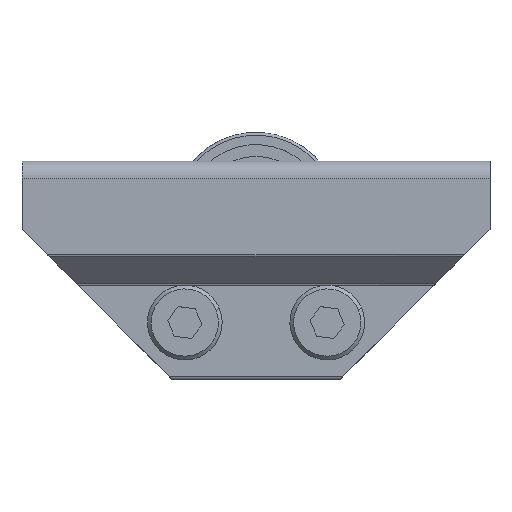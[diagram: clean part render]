
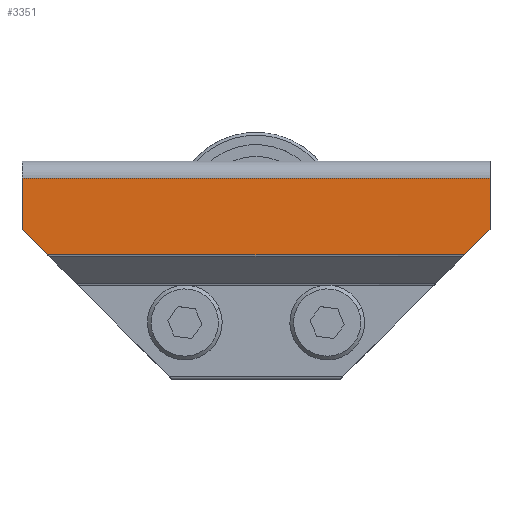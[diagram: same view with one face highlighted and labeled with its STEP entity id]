
A CAD part, top view. The second image highlights one B-rep face of the part: STEP entity #3351.
In plain terms, the highlighted planar face has unit normal (0, 0, 1) as drawn and (1, 0, 0) by its records, which use the part's own axes.
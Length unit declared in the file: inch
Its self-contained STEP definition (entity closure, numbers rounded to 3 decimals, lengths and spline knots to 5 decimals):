
#2826=DIRECTION('',(0.,-1.,0.));
#2827=VECTOR('',#2826,0.269);
#2828=CARTESIAN_POINT('',(0.375,0.763,-1.2325));
#2829=LINE('',#2828,#2827);
#2870=DIRECTION('',(0.,-0.707,-0.707));
#2871=VECTOR('',#2870,0.19062);
#2872=CARTESIAN_POINT('',(0.375,0.494,1.2325));
#2873=LINE('',#2872,#2871);
#2874=DIRECTION('',(0.,-1.,0.));
#2875=VECTOR('',#2874,0.269);
#2876=CARTESIAN_POINT('',(0.375,0.763,1.2325));
#2877=LINE('',#2876,#2875);
#2878=DIRECTION('',(0.,0.707,-0.707));
#2879=VECTOR('',#2878,0.19062);
#2880=CARTESIAN_POINT('',(0.375,0.35921,-1.09771));
#2881=LINE('',#2880,#2879);
#2886=DIRECTION('',(0.,0.,1.));
#2887=VECTOR('',#2886,2.19543);
#2888=CARTESIAN_POINT('',(0.375,0.35921,-1.09771));
#2889=LINE('',#2888,#2887);
#3085=DIRECTION('',(0.,0.,-1.));
#3086=VECTOR('',#3085,2.465);
#3087=CARTESIAN_POINT('',(0.375,0.763,1.2325));
#3088=LINE('',#3087,#3086);
#3172=CARTESIAN_POINT('',(0.375,0.494,-1.2325));
#3173=VERTEX_POINT('',#3172);
#3190=CARTESIAN_POINT('',(0.375,0.35921,-1.09771));
#3191=CARTESIAN_POINT('',(0.375,0.35921,1.09771));
#3192=VERTEX_POINT('',#3190);
#3193=VERTEX_POINT('',#3191);
#3206=CARTESIAN_POINT('',(0.375,0.763,-1.2325));
#3208=VERTEX_POINT('',#3206);
#3221=CARTESIAN_POINT('',(0.375,0.763,1.2325));
#3222=CARTESIAN_POINT('',(0.375,0.494,1.2325));
#3223=VERTEX_POINT('',#3221);
#3224=VERTEX_POINT('',#3222);
#3333=CARTESIAN_POINT('',(0.375,0.763,1.2325));
#3334=DIRECTION('',(-1.,0.,0.));
#3335=DIRECTION('',(0.,-1.,0.));
#3336=AXIS2_PLACEMENT_3D('',#3333,#3334,#3335);
#3337=PLANE('',#3336);
#3339=ORIENTED_EDGE('',*,*,#3338,.T.);
#3341=ORIENTED_EDGE('',*,*,#3340,.F.);
#3343=ORIENTED_EDGE('',*,*,#3342,.F.);
#3345=ORIENTED_EDGE('',*,*,#3344,.T.);
#3346=ORIENTED_EDGE('',*,*,#3307,.T.);
#3348=ORIENTED_EDGE('',*,*,#3347,.F.);
#3349=EDGE_LOOP('',(#3339,#3341,#3343,#3345,#3346,#3348));
#3350=FACE_OUTER_BOUND('',#3349,.F.);
#3307=EDGE_CURVE('',#3208,#3173,#2829,.T.);
#3338=EDGE_CURVE('',#3192,#3193,#2889,.T.);
#3340=EDGE_CURVE('',#3224,#3193,#2873,.T.);
#3342=EDGE_CURVE('',#3223,#3224,#2877,.T.);
#3344=EDGE_CURVE('',#3223,#3208,#3088,.T.);
#3347=EDGE_CURVE('',#3192,#3173,#2881,.T.);
#3351=ADVANCED_FACE('',(#3350),#3337,.F.);
